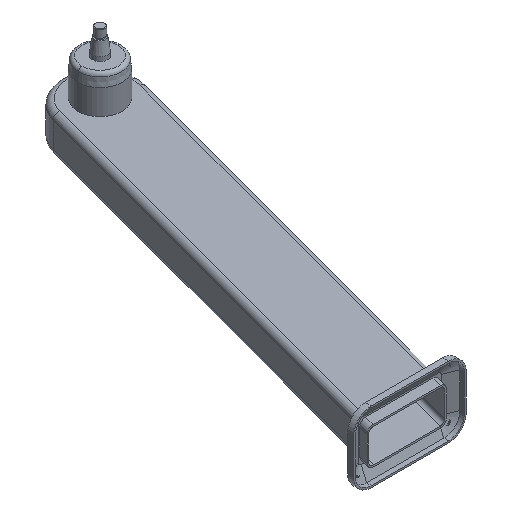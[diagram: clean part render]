
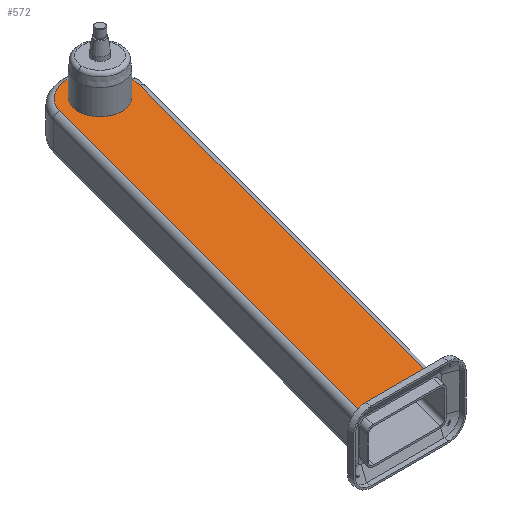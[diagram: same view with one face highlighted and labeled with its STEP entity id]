
A CAD part, isometric view. The second image highlights one B-rep face of the part: STEP entity #572.
In plain terms, the highlighted planar face has unit normal (0, 0, 1).
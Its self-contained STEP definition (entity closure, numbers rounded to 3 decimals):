
#32 = EDGE_CURVE ( 'NONE', #1137, #147, #132, .T. ) ;
#90 = CARTESIAN_POINT ( 'NONE',  ( 0., 0., 31.25 ) ) ;
#97 = ORIENTED_EDGE ( 'NONE', *, *, #560, .T. ) ;
#132 = CIRCLE ( 'NONE', #3281, 38. ) ;
#147 = VERTEX_POINT ( 'NONE', #1931 ) ;
#283 = CIRCLE ( 'NONE', #1043, 38. ) ;
#302 = LINE ( 'NONE', #828, #2226 ) ;
#364 = DIRECTION ( 'NONE',  ( 1., 0., 0. ) ) ;
#405 = ORIENTED_EDGE ( 'NONE', *, *, #32, .F. ) ;
#416 = EDGE_CURVE ( 'NONE', #680, #2844, #302, .T. ) ;
#555 = CIRCLE ( 'NONE', #1649, 55. ) ;
#560 = EDGE_CURVE ( 'NONE', #870, #1945, #1352, .T. ) ;
#570 = CARTESIAN_POINT ( 'NONE',  ( 0., 0., 31.25 ) ) ;
#572 = ADVANCED_FACE ( 'NONE', ( #1283, #3297 ), #2192, .T. ) ;
#622 = LINE ( 'NONE', #2900, #1878 ) ;
#675 = CARTESIAN_POINT ( 'NONE',  ( 0., 0., 31.25 ) ) ;
#680 = VERTEX_POINT ( 'NONE', #1976 ) ;
#721 = EDGE_LOOP ( 'NONE', ( #1319, #97, #796, #2471, #1736 ) ) ;
#796 = ORIENTED_EDGE ( 'NONE', *, *, #1452, .T. ) ;
#822 = DIRECTION ( 'NONE',  ( 1., 0., 0. ) ) ;
#828 = CARTESIAN_POINT ( 'NONE',  ( -247.878, -712.588, 31.25 ) ) ;
#870 = VERTEX_POINT ( 'NONE', #1449 ) ;
#916 = VERTEX_POINT ( 'NONE', #1942 ) ;
#1043 = AXIS2_PLACEMENT_3D ( 'NONE', #570, #2334, #822 ) ;
#1137 = VERTEX_POINT ( 'NONE', #2300 ) ;
#1185 = DIRECTION ( 'NONE',  ( 0., 0., 1. ) ) ;
#1199 = DIRECTION ( 'NONE',  ( 1., 0., 0. ) ) ;
#1201 = EDGE_CURVE ( 'NONE', #147, #1137, #283, .T. ) ;
#1283 = FACE_OUTER_BOUND ( 'NONE', #721, .T. ) ;
#1319 = ORIENTED_EDGE ( 'NONE', *, *, #2697, .T. ) ;
#1352 = CIRCLE ( 'NONE', #1394, 55. ) ;
#1394 = AXIS2_PLACEMENT_3D ( 'NONE', #2696, #1185, #2948 ) ;
#1449 = CARTESIAN_POINT ( 'NONE',  ( 53.126, -14.235, 31.25 ) ) ;
#1452 = EDGE_CURVE ( 'NONE', #1945, #680, #555, .T. ) ;
#1496 = ORIENTED_EDGE ( 'NONE', *, *, #1201, .F. ) ;
#1649 = AXIS2_PLACEMENT_3D ( 'NONE', #90, #1864, #364 ) ;
#1736 = ORIENTED_EDGE ( 'NONE', *, *, #2440, .T. ) ;
#1864 = DIRECTION ( 'NONE',  ( 0., 0., 1. ) ) ;
#1878 = VECTOR ( 'NONE', #3155, 1000. ) ;
#1931 = CARTESIAN_POINT ( 'NONE',  ( -38., 0., 31.25 ) ) ;
#1942 = CARTESIAN_POINT ( 'NONE',  ( -127.945, -690., 31.25 ) ) ;
#1945 = VERTEX_POINT ( 'NONE', #3098 ) ;
#1976 = CARTESIAN_POINT ( 'NONE',  ( -53.126, 14.235, 31.25 ) ) ;
#1995 = CARTESIAN_POINT ( 'NONE',  ( -241.825, -690., 31.25 ) ) ;
#2174 = CARTESIAN_POINT ( 'NONE',  ( 0., -690., 31.25 ) ) ;
#2192 = PLANE ( 'NONE',  #2913 ) ;
#2226 = VECTOR ( 'NONE', #3129, 1000. ) ;
#2300 = CARTESIAN_POINT ( 'NONE',  ( 38., 0., 31.25 ) ) ;
#2334 = DIRECTION ( 'NONE',  ( 0., 0., 1. ) ) ;
#2428 = DIRECTION ( 'NONE',  ( 1., 0., 0. ) ) ;
#2440 = EDGE_CURVE ( 'NONE', #2844, #916, #2680, .T. ) ;
#2471 = ORIENTED_EDGE ( 'NONE', *, *, #416, .T. ) ;
#2659 = EDGE_LOOP ( 'NONE', ( #405, #1496 ) ) ;
#2680 = LINE ( 'NONE', #2174, #3282 ) ;
#2696 = CARTESIAN_POINT ( 'NONE',  ( 0., 0., 31.25 ) ) ;
#2697 = EDGE_CURVE ( 'NONE', #916, #870, #622, .T. ) ;
#2705 = DIRECTION ( 'NONE',  ( 0., 0., 1. ) ) ;
#2720 = DIRECTION ( 'NONE',  ( 0., 0., 1. ) ) ;
#2844 = VERTEX_POINT ( 'NONE', #1995 ) ;
#2900 = CARTESIAN_POINT ( 'NONE',  ( 53.126, -14.235, 31.25 ) ) ;
#2913 = AXIS2_PLACEMENT_3D ( 'NONE', #675, #2705, #1199 ) ;
#2948 = DIRECTION ( 'NONE',  ( 1., 0., 0. ) ) ;
#2964 = DIRECTION ( 'NONE',  ( 1., 0., 0. ) ) ;
#3042 = CARTESIAN_POINT ( 'NONE',  ( 0., 0., 31.25 ) ) ;
#3098 = CARTESIAN_POINT ( 'NONE',  ( 55., 0., 31.25 ) ) ;
#3129 = DIRECTION ( 'NONE',  ( -0.259, -0.966, 0. ) ) ;
#3155 = DIRECTION ( 'NONE',  ( 0.259, 0.966, 0. ) ) ;
#3281 = AXIS2_PLACEMENT_3D ( 'NONE', #3042, #2720, #2964 ) ;
#3282 = VECTOR ( 'NONE', #2428, 1000. ) ;
#3297 = FACE_BOUND ( 'NONE', #2659, .T. ) ;
